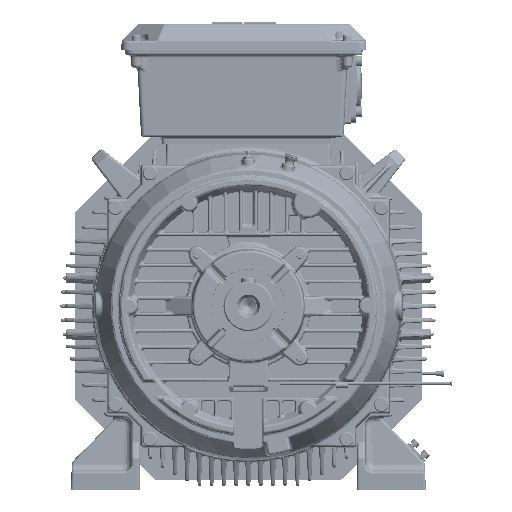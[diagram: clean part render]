
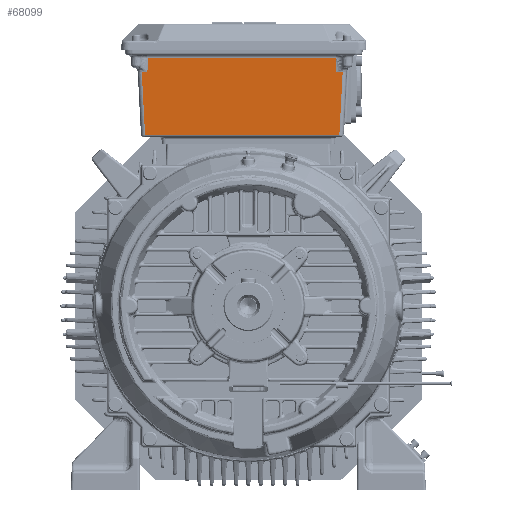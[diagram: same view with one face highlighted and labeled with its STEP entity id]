
A CAD part, front view. The second image highlights one B-rep face of the part: STEP entity #68099.
In plain terms, the highlighted planar face has unit normal (0, -0.999, -0.052).
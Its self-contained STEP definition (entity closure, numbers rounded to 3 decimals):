
#27250=B_SPLINE_CURVE_WITH_KNOTS('',3,(#433682,#433683,#433684,#433685,
#433686,#433687,#433688),.UNSPECIFIED.,.F.,.F.,(4,1,1,1,4),(0.,0.235,
0.277,0.319,1.),.UNSPECIFIED.);
#27257=B_SPLINE_CURVE_WITH_KNOTS('',3,(#433889,#433890,#433891,#433892,
#433893,#433894,#433895),.UNSPECIFIED.,.F.,.F.,(4,1,1,1,4),(0.,0.681,
0.723,0.765,1.),.UNSPECIFIED.);
#30541=PLANE('',#198628);
#40993=FACE_OUTER_BOUND('',#83707,.T.);
#47932=LINE('',#433645,#54939);
#47933=LINE('',#433811,#54940);
#47942=LINE('',#435304,#54949);
#47984=LINE('',#436068,#54991);
#47985=LINE('',#436070,#54992);
#47986=LINE('',#436072,#54993);
#54939=VECTOR('',#232573,1.);
#54940=VECTOR('',#232586,1.);
#54949=VECTOR('',#232719,1.);
#54991=VECTOR('',#232899,1.);
#54992=VECTOR('',#232902,1.);
#54993=VECTOR('',#232903,1.);
#68099=ADVANCED_FACE('',(#40993),#30541,.T.);
#83707=EDGE_LOOP('',(#133419,#133420,#133421,#133422,#133423,#133424,#133425,
#133426));
#133419=ORIENTED_EDGE('',*,*,#176103,.T.);
#133420=ORIENTED_EDGE('',*,*,#176102,.F.);
#133421=ORIENTED_EDGE('',*,*,#175868,.T.);
#133422=ORIENTED_EDGE('',*,*,#175871,.T.);
#133423=ORIENTED_EDGE('',*,*,#175996,.F.);
#133424=ORIENTED_EDGE('',*,*,#175886,.T.);
#133425=ORIENTED_EDGE('',*,*,#175880,.T.);
#133426=ORIENTED_EDGE('',*,*,#176104,.F.);
#150595=VERTEX_POINT('',#433497);
#150599=VERTEX_POINT('',#433644);
#150600=VERTEX_POINT('',#433681);
#150606=VERTEX_POINT('',#433764);
#150608=VERTEX_POINT('',#433810);
#150611=VERTEX_POINT('',#433861);
#150733=VERTEX_POINT('',#436067);
#150734=VERTEX_POINT('',#436071);
#175868=EDGE_CURVE('',#150595,#150599,#47932,.T.);
#175871=EDGE_CURVE('',#150599,#150600,#27250,.T.);
#175880=EDGE_CURVE('',#150606,#150608,#47933,.T.);
#175886=EDGE_CURVE('',#150611,#150606,#27257,.T.);
#175996=EDGE_CURVE('',#150611,#150600,#47942,.T.);
#176102=EDGE_CURVE('',#150595,#150733,#47984,.T.);
#176103=EDGE_CURVE('',#150734,#150733,#47985,.T.);
#176104=EDGE_CURVE('',#150734,#150608,#47986,.T.);
#198628=AXIS2_PLACEMENT_3D('',#436073,#232904,#232905);
#232573=DIRECTION('',(-1.,0.,0.));
#232586=DIRECTION('',(-1.,0.,0.));
#232719=DIRECTION('',(1.,0.,0.));
#232899=DIRECTION('',(-0.052,0.052,-0.997));
#232902=DIRECTION('',(1.,0.,0.));
#232903=DIRECTION('',(-0.052,-0.052,0.997));
#232904=DIRECTION('',(0.,-0.999,-0.052));
#232905=DIRECTION('',(-1.,0.,0.));
#433497=CARTESIAN_POINT('',(115.399,2.308,286.314));
#433644=CARTESIAN_POINT('',(107.484,2.308,286.314));
#433645=CARTESIAN_POINT('',(115.399,2.308,286.314));
#433681=CARTESIAN_POINT('',(106.973,1.373,304.157));
#433682=CARTESIAN_POINT('',(107.484,2.308,286.314));
#433683=CARTESIAN_POINT('',(107.443,2.235,287.709));
#433684=CARTESIAN_POINT('',(107.395,2.149,289.355));
#433685=CARTESIAN_POINT('',(107.341,2.049,291.25));
#433686=CARTESIAN_POINT('',(107.209,1.811,295.802));
#433687=CARTESIAN_POINT('',(107.087,1.585,300.105));
#433688=CARTESIAN_POINT('',(106.973,1.373,304.157));
#433764=CARTESIAN_POINT('',(-123.484,2.308,286.314));
#433810=CARTESIAN_POINT('',(-130.399,2.308,286.314));
#433811=CARTESIAN_POINT('',(-123.484,2.308,286.314));
#433861=CARTESIAN_POINT('',(-122.973,1.373,304.157));
#433889=CARTESIAN_POINT('',(-122.973,1.373,304.157));
#433890=CARTESIAN_POINT('',(-123.087,1.585,300.105));
#433891=CARTESIAN_POINT('',(-123.209,1.811,295.802));
#433892=CARTESIAN_POINT('',(-123.341,2.049,291.25));
#433893=CARTESIAN_POINT('',(-123.395,2.149,289.355));
#433894=CARTESIAN_POINT('',(-123.443,2.235,287.709));
#433895=CARTESIAN_POINT('',(-123.484,2.308,286.314));
#435304=CARTESIAN_POINT('',(-122.973,1.373,304.157));
#436067=CARTESIAN_POINT('',(111.391,6.316,209.843));
#436068=CARTESIAN_POINT('',(115.399,2.308,286.314));
#436070=CARTESIAN_POINT('',(-126.391,6.316,209.843));
#436071=CARTESIAN_POINT('',(-126.391,6.316,209.843));
#436072=CARTESIAN_POINT('',(-126.391,6.316,209.843));
#436073=CARTESIAN_POINT('',(-137.132,6.465,207.));
